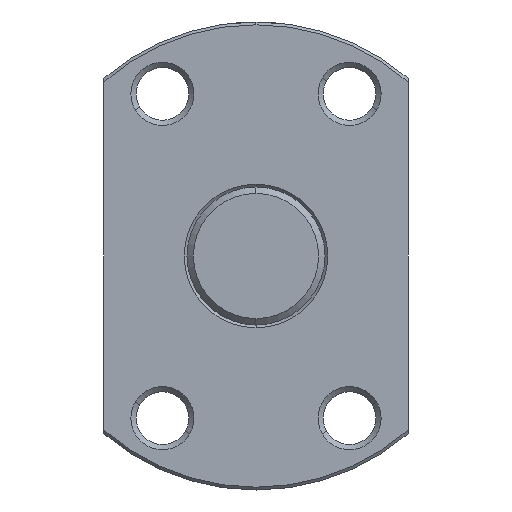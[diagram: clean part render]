
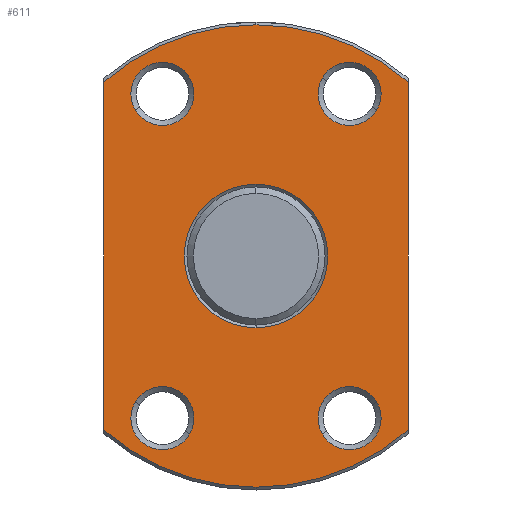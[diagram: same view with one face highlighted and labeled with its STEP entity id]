
A CAD part, left-side view. The second image highlights one B-rep face of the part: STEP entity #611.
In plain terms, the highlighted planar face has unit normal (-1, 0, 0).
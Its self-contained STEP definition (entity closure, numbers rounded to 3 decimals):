
#343=VERTEX_POINT('',#966);
#345=VERTEX_POINT('',#968);
#357=VERTEX_POINT('',#982);
#365=VERTEX_POINT('',#991);
#373=EDGE_CURVE('',#383,#499,#999,.T.);
#383=VERTEX_POINT('',#1012);
#393=VERTEX_POINT('',#1022);
#433=EDGE_CURVE('',#539,#449,#1069,.T.);
#449=VERTEX_POINT('',#1088);
#499=VERTEX_POINT('',#1142);
#521=EDGE_CURVE('',#591,#629,#1165,.T.);
#539=VERTEX_POINT('',#1183);
#557=EDGE_CURVE('',#733,#345,#1202,.T.);
#589=EDGE_CURVE('',#449,#539,#1239,.T.);
#591=VERTEX_POINT('',#1241);
#597=VERTEX_POINT('',#1248);
#611=ADVANCED_FACE('',(#1264,#1265,#1266,#1267,#1268,#1269),#1270,.T.);
#629=VERTEX_POINT('',#1290);
#643=EDGE_CURVE('',#357,#709,#1304,.T.);
#709=VERTEX_POINT('',#1384);
#733=VERTEX_POINT('',#1411);
#767=EDGE_CURVE('',#393,#915,#1449,.T.);
#785=EDGE_CURVE('',#629,#591,#1469,.T.);
#813=EDGE_CURVE('',#365,#733,#1500,.T.);
#819=EDGE_CURVE('',#365,#937,#1506,.T.);
#833=EDGE_CURVE('',#597,#937,#1521,.T.);
#841=EDGE_CURVE('',#343,#597,#1529,.T.);
#855=EDGE_CURVE('',#499,#383,#1544,.T.);
#869=EDGE_CURVE('',#709,#357,#1559,.T.);
#891=EDGE_CURVE('',#915,#393,#1584,.T.);
#915=VERTEX_POINT('',#1614);
#921=EDGE_CURVE('',#343,#345,#1620,.T.);
#937=VERTEX_POINT('',#1638);
#966=CARTESIAN_POINT('',(25.0,-13.0,-14.884));
#968=CARTESIAN_POINT('',(25.0,-13.0,14.884));
#982=CARTESIAN_POINT('',(25.0,5.662,15.206));
#991=CARTESIAN_POINT('',(25.0,13.0,14.884));
#999=CIRCLE('',#1714,2.7);
#1012=CARTESIAN_POINT('',(25.0,-5.662,-15.206));
#1022=CARTESIAN_POINT('',(25.0,-5.662,15.206));
#1069=CIRCLE('',#1803,6.136);
#1088=CARTESIAN_POINT('',(25.0,0.,-6.136));
#1142=CARTESIAN_POINT('',(25.0,-10.338,-12.506));
#1165=CIRCLE('',#1935,2.7);
#1183=CARTESIAN_POINT('',(25.0,0.0,6.136));
#1202=CIRCLE('',#2003,19.762);
#1239=CIRCLE('',#2050,6.136);
#1241=CARTESIAN_POINT('',(25.0,10.338,-12.506));
#1248=CARTESIAN_POINT('',(25.0,0.,-19.762));
#1264=FACE_BOUND('',#2079,.T.);
#1265=FACE_OUTER_BOUND('',#2080,.T.);
#1266=FACE_BOUND('',#2081,.T.);
#1267=FACE_BOUND('',#2082,.T.);
#1268=FACE_BOUND('',#2083,.T.);
#1269=FACE_BOUND('',#2084,.T.);
#1270=PLANE('',#2085);
#1290=CARTESIAN_POINT('',(25.0,5.662,-15.206));
#1304=CIRCLE('',#2140,2.7);
#1384=CARTESIAN_POINT('',(25.0,10.338,12.506));
#1411=CARTESIAN_POINT('',(25.0,0.,19.762));
#1449=CIRCLE('',#2345,2.7);
#1469=CIRCLE('',#2370,2.7);
#1500=CIRCLE('',#2410,19.762);
#1506=LINE('',#2420,#2421);
#1521=CIRCLE('',#2439,19.762);
#1529=CIRCLE('',#2452,19.762);
#1544=CIRCLE('',#2468,2.7);
#1559=CIRCLE('',#2507,2.7);
#1584=CIRCLE('',#2549,2.7);
#1614=CARTESIAN_POINT('',(25.0,-10.338,12.506));
#1620=LINE('',#2592,#2593);
#1638=CARTESIAN_POINT('',(25.0,13.0,-14.884));
#1714=AXIS2_PLACEMENT_3D('',#2688,#2689,#2690);
#1803=AXIS2_PLACEMENT_3D('',#2788,#2789,#2790);
#1935=AXIS2_PLACEMENT_3D('',#2885,#2886,#2887);
#2003=AXIS2_PLACEMENT_3D('',#2921,#2922,#2923);
#2050=AXIS2_PLACEMENT_3D('',#2981,#2982,#2983);
#2079=EDGE_LOOP('',(#3016,#3017));
#2080=EDGE_LOOP('',(#3018,#3019,#3020,#3021,#3022,#3023));
#2081=EDGE_LOOP('',(#3024,#3025));
#2082=EDGE_LOOP('',(#3026,#3027));
#2083=EDGE_LOOP('',(#3028,#3029));
#2084=EDGE_LOOP('',(#3030,#3031));
#2085=AXIS2_PLACEMENT_3D('',#3032,#3033,#3034);
#2140=AXIS2_PLACEMENT_3D('',#3066,#3067,#3068);
#2345=AXIS2_PLACEMENT_3D('',#3258,#3259,#3260);
#2370=AXIS2_PLACEMENT_3D('',#3285,#3286,#3287);
#2410=AXIS2_PLACEMENT_3D('',#3325,#3326,#3327);
#2420=CARTESIAN_POINT('',(25.0,13.0,4.941));
#2421=VECTOR('',#3332,1.0);
#2439=AXIS2_PLACEMENT_3D('',#3351,#3352,#3353);
#2452=AXIS2_PLACEMENT_3D('',#3356,#3357,#3358);
#2468=AXIS2_PLACEMENT_3D('',#3367,#3368,#3369);
#2507=AXIS2_PLACEMENT_3D('',#3383,#3384,#3385);
#2549=AXIS2_PLACEMENT_3D('',#3417,#3418,#3419);
#2592=CARTESIAN_POINT('',(25.0,-13.0,4.941));
#2593=VECTOR('',#3476,1.0);
#2688=CARTESIAN_POINT('',(25.0,-8.0,-13.856));
#2689=DIRECTION('',(1.0,0.0,0.));
#2690=DIRECTION('',(0.,-0.866,0.5));
#2788=CARTESIAN_POINT('',(25.0,0.0,0.0));
#2789=DIRECTION('',(1.0,0.0,0.));
#2790=DIRECTION('',(0.,0.0,1.0));
#2885=CARTESIAN_POINT('',(25.0,8.0,-13.856));
#2886=DIRECTION('',(1.0,0.0,0.));
#2887=DIRECTION('',(0.,-0.866,-0.5));
#2921=CARTESIAN_POINT('',(25.0,0.0,0.0));
#2922=DIRECTION('',(1.0,0.0,-0.0));
#2923=DIRECTION('',(0.0,0.0,1.0));
#2981=CARTESIAN_POINT('',(25.0,0.0,0.0));
#2982=DIRECTION('',(1.0,0.0,0.));
#2983=DIRECTION('',(0.,0.0,1.0));
#3016=ORIENTED_EDGE('',*,*,#433,.T.);
#3017=ORIENTED_EDGE('',*,*,#589,.T.);
#3018=ORIENTED_EDGE('',*,*,#819,.T.);
#3019=ORIENTED_EDGE('',*,*,#833,.F.);
#3020=ORIENTED_EDGE('',*,*,#841,.F.);
#3021=ORIENTED_EDGE('',*,*,#921,.T.);
#3022=ORIENTED_EDGE('',*,*,#557,.F.);
#3023=ORIENTED_EDGE('',*,*,#813,.F.);
#3024=ORIENTED_EDGE('',*,*,#855,.T.);
#3025=ORIENTED_EDGE('',*,*,#373,.T.);
#3026=ORIENTED_EDGE('',*,*,#785,.T.);
#3027=ORIENTED_EDGE('',*,*,#521,.T.);
#3028=ORIENTED_EDGE('',*,*,#869,.T.);
#3029=ORIENTED_EDGE('',*,*,#643,.T.);
#3030=ORIENTED_EDGE('',*,*,#767,.T.);
#3031=ORIENTED_EDGE('',*,*,#891,.T.);
#3032=CARTESIAN_POINT('',(25.0,0.0,9.881));
#3033=DIRECTION('',(-1.0,-0.0,0.));
#3034=DIRECTION('',(0.,0.0,-1.0));
#3066=CARTESIAN_POINT('',(25.0,8.0,13.856));
#3067=DIRECTION('',(1.0,0.0,0.));
#3068=DIRECTION('',(0.,0.866,-0.5));
#3258=CARTESIAN_POINT('',(25.0,-8.0,13.856));
#3259=DIRECTION('',(1.0,0.0,0.));
#3260=DIRECTION('',(0.,0.866,0.5));
#3285=CARTESIAN_POINT('',(25.0,8.0,-13.856));
#3286=DIRECTION('',(1.0,0.0,0.));
#3287=DIRECTION('',(0.,-0.866,-0.5));
#3325=CARTESIAN_POINT('',(25.0,0.0,0.0));
#3326=DIRECTION('',(1.0,0.0,-0.0));
#3327=DIRECTION('',(0.0,0.0,1.0));
#3332=DIRECTION('',(0.,0.0,-1.0));
#3351=CARTESIAN_POINT('',(25.0,0.0,0.0));
#3352=DIRECTION('',(1.0,0.0,-0.0));
#3353=DIRECTION('',(0.0,0.0,1.0));
#3356=CARTESIAN_POINT('',(25.0,0.0,0.0));
#3357=DIRECTION('',(1.0,0.0,-0.0));
#3358=DIRECTION('',(0.0,0.0,1.0));
#3367=CARTESIAN_POINT('',(25.0,-8.0,-13.856));
#3368=DIRECTION('',(1.0,0.0,0.));
#3369=DIRECTION('',(0.,-0.866,0.5));
#3383=CARTESIAN_POINT('',(25.0,8.0,13.856));
#3384=DIRECTION('',(1.0,0.0,0.));
#3385=DIRECTION('',(0.,0.866,-0.5));
#3417=CARTESIAN_POINT('',(25.0,-8.0,13.856));
#3418=DIRECTION('',(1.0,0.0,0.));
#3419=DIRECTION('',(0.,0.866,0.5));
#3476=DIRECTION('',(0.,0.0,1.0));
